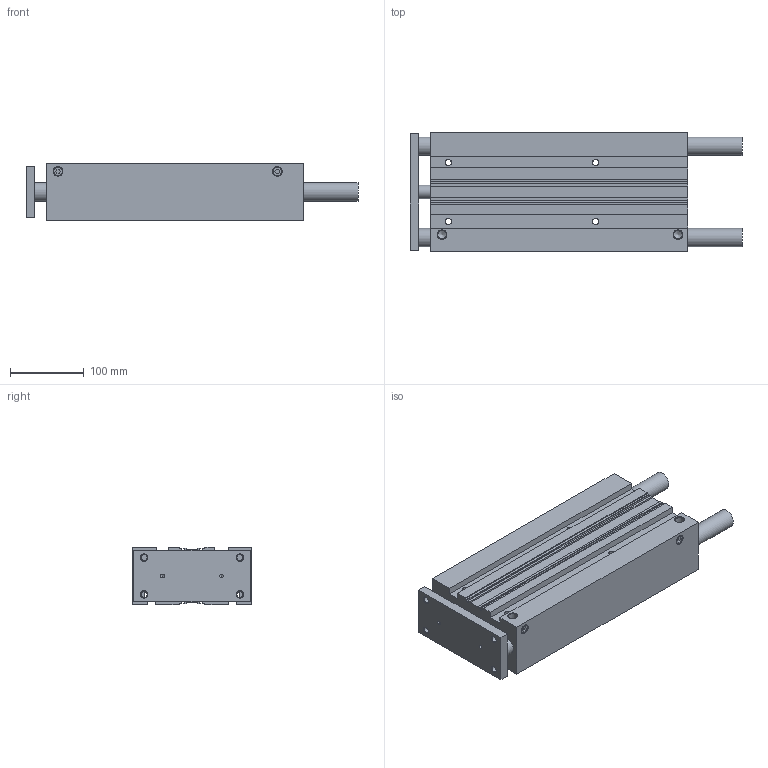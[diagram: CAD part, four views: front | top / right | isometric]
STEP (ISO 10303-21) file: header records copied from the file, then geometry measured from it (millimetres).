
FILE_DESCRIPTION(/* description */ ('STEP AP214'),/* implementation_level */ '2;1');
FILE_NAME(/* name */ 'MGPM63TF-300Z(0_0)',/* time_stamp */ '2025-09-02T13:16:30+02:00',/* author */ ('License CC BY-ND 4.0'),/* organization */ ('CADENAS'),/* preprocessor_version */ 'ST-DEVELOPER v19.3',/* originating_system */ 'PARTsolutions',/* authorisation */ ' ');
FILE_SCHEMA (('AUTOMOTIVE_DESIGN {1 0 10303 214 3 1 1}'));
Length unit declared in the file: millimetre
Products named in the file (4): MGPM63TF-300Z(0_0); MGPM63-300Z(0)_BODY; MGPM63-300Z(0)_ROD; MGP-Z_PLUG_63
Assembly tree (4 placements, depth 2):
  MGPM63TF-300Z(0_0)
    MGPM63-300Z(0)_BODY
    MGPM63-300Z(0)_ROD
    MGP-Z_PLUG_63  x2
Bounding box: 450.5 x 162 x 78 mm (x, y, z)
Volume: 3388946.1 mm3; surface area: 507670.8 mm2
Topology: 4 solids, 4 shells, 196 faces, 473 edges, 301 vertices
Faces by surface type: plane 108, cylinder 50, cone 38
Full cylindrical faces by diameter (mm): 5 x6, 8.376 x12, 8.6 x4, 10 x4, 11.445 x4, 13.157 x2, 18 x2, 25 x4, 63 x2
Entity records: 5017 total; most frequent: DIRECTION 856, CARTESIAN_POINT 825, ORIENTED_EDGE 710, EDGE_CURVE 355, AXIS2_PLACEMENT_3D 312, FACE_BOUND 308, EDGE_LOOP 294, VERTEX_POINT 281
